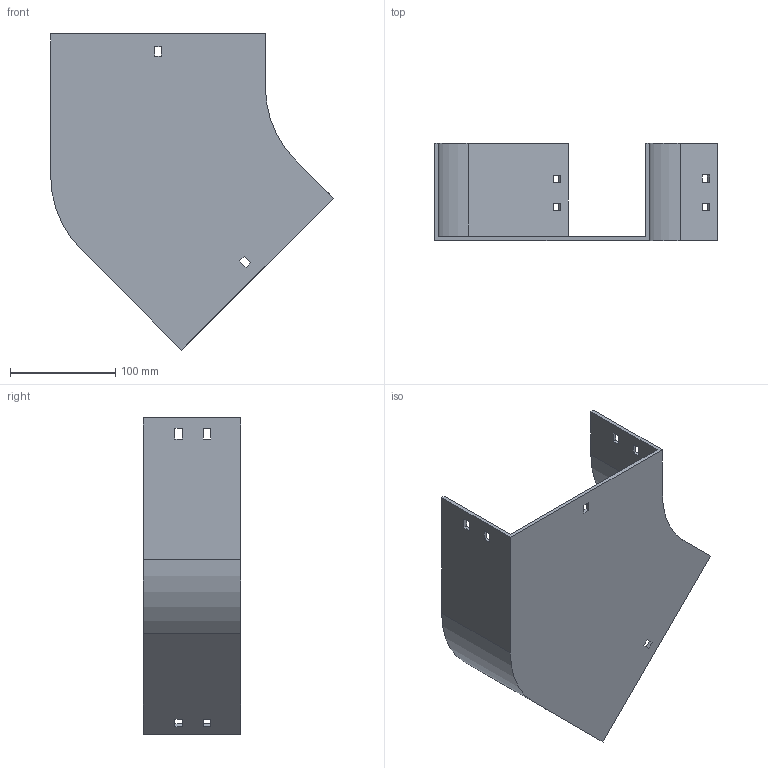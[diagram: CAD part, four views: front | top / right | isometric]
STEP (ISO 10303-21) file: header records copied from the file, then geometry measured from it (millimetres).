
FILE_DESCRIPTION (( 'STEP AP214' ), '1' );
FILE_NAME ('11B1I200.step', '2025-02-21T09:39:10', ( '' ), ( '' ), 'SwSTEP 2.0', 'SolidWorks 2023', '' );
FILE_SCHEMA (( 'AUTOMOTIVE_DESIGN' ));
Length unit declared in the file: millimetre
Products named in the file (1): 11B1I200
Bounding box: 268.64 x 92.5 x 300.32 mm (x, y, z)
Volume: 352386.4 mm3; surface area: 207047.9 mm2
Topology: 1 solids, 1 shells, 58 faces, 168 edges, 112 vertices
Faces by surface type: plane 54, cylinder 4
Entity records: 1943 total; most frequent: CARTESIAN_POINT 339, ORIENTED_EDGE 336, DIRECTION 294, EDGE_CURVE 168, VECTOR 160, LINE 160, VERTEX_POINT 112, EDGE_LOOP 78
